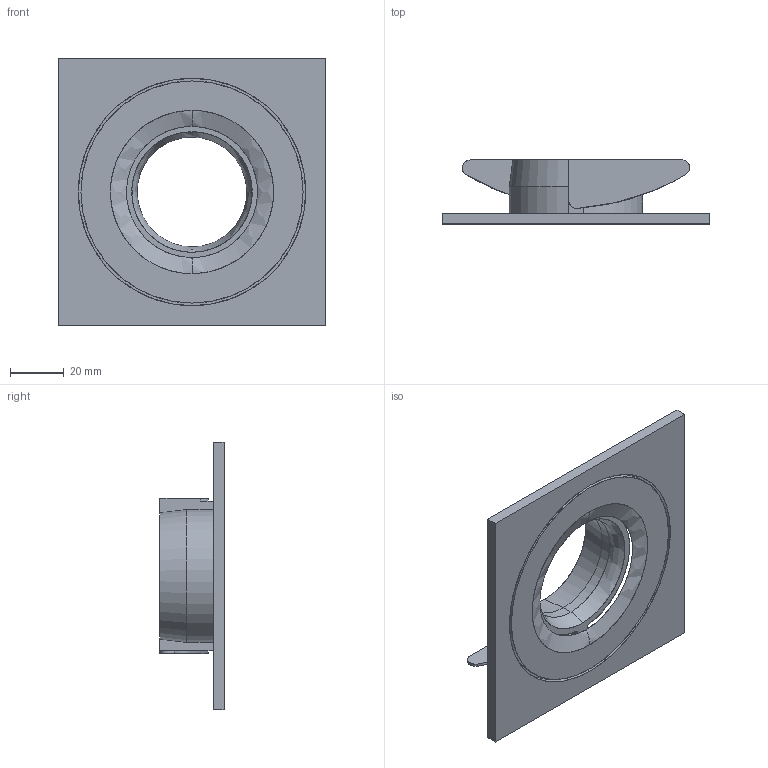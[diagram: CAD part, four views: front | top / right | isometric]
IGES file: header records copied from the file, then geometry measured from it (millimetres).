
Start section: SolidWorks IGES file using analytic representation for surfaces
Global section: file name: C:\Users\danielet\Desktop\3D ANDONI\WAKA-P37251-3D\WAKA-P37251-3D.IGS; native system: SolidWorks 2018; preprocessor: SolidWorks 2018; author: danielet; date: 210315.074401; units: millimetre
Bounding box: 100 x 24 x 100 mm (x, y, z)
Surface area: 29526.1 mm2 (no closed solid volume)
Topology: 0 solids, 0 shells, 69 faces, 1288 edges, 1288 vertices
Faces by surface type: bspline 39, revolution 30
